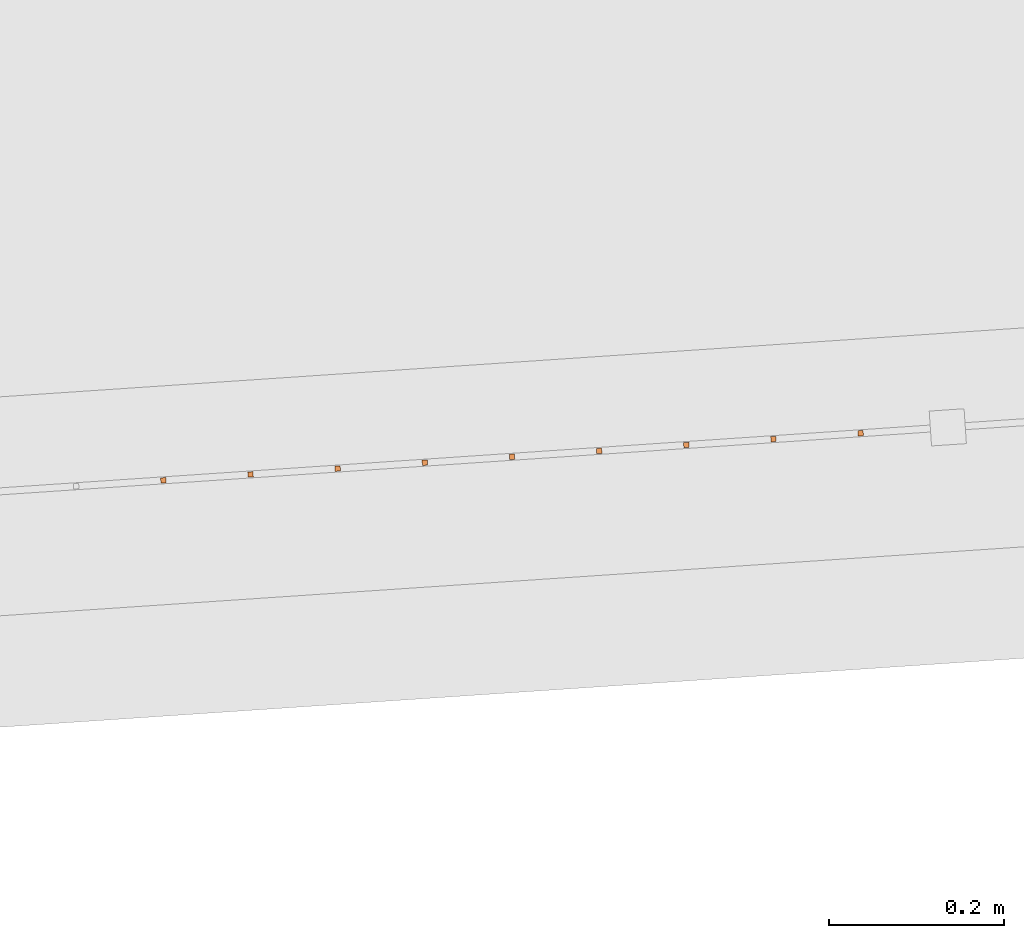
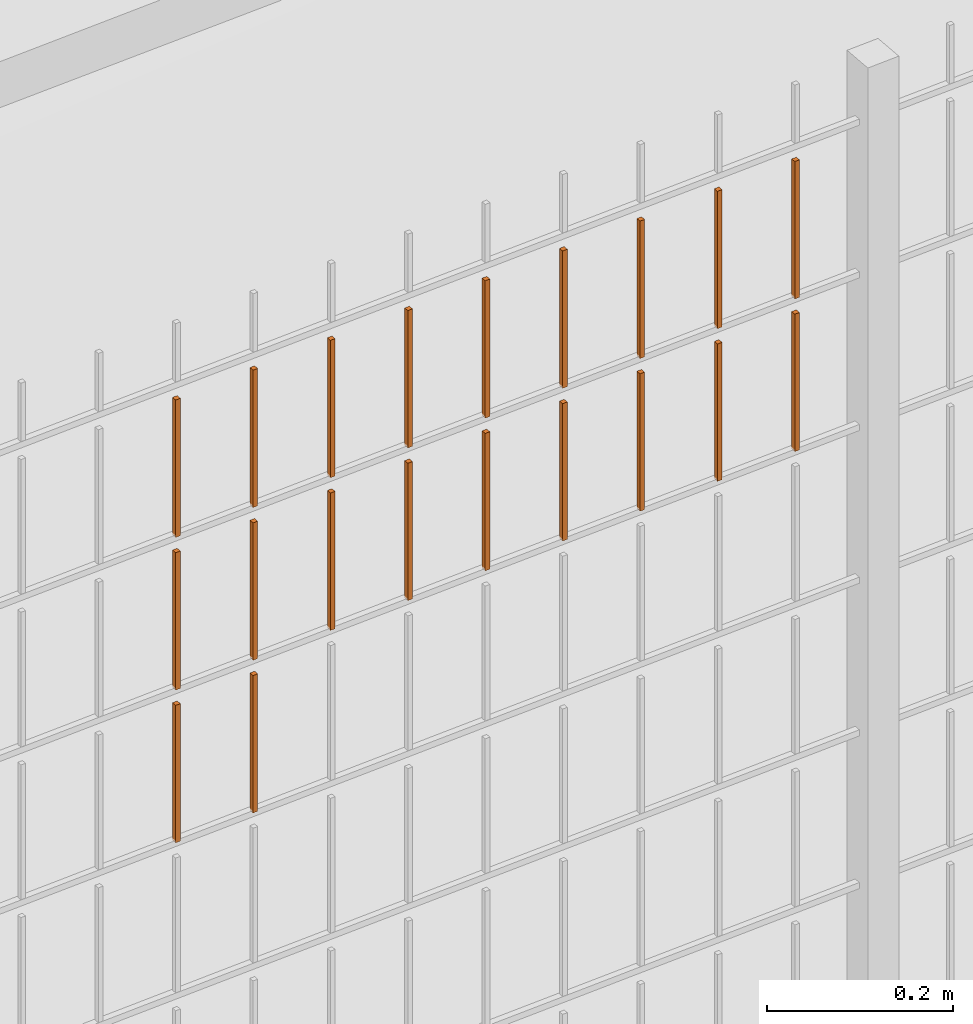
# One storey, part 291 of 1809: 20 proxies, 1 element without a shape of its own.
"""IFC2X3 building model written with IfcOpenShell, lengths in millimetres."""

from ifc_helpers import new_model, entity, si_unit, converted_unit, derived_unit, money_unit, direction, frame, origin_with_axes, place, context, subcontext, project, spatial, faceted_brep, source, transform, mapped, material, type_object, element, aggregate, save


model = new_model("IFC2X3")

# Units and contexts
model_context = context("Model", 3, precision=0.01, world=origin_with_axes(), true_north=direction((0.0, 1.0)))
body_context = subcontext(model_context, "Body", "Model", "MODEL_VIEW")
ifc_project = project(units=[si_unit("LENGTHUNIT", "METRE", prefix="MILLI"), si_unit("AREAUNIT", "SQUARE_METRE"), si_unit("VOLUMEUNIT", "CUBIC_METRE"), converted_unit("PLANEANGLEUNIT", "DEGREE", entity("IfcPlaneAngleMeasure", 0.0174532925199), si_unit("PLANEANGLEUNIT", "RADIAN"), dimensions=[0, 0, 0, 0, 0, 0, 0]), si_unit("SOLIDANGLEUNIT", "STERADIAN"), money_unit("EUR"), converted_unit("TIMEUNIT", "Year", entity("IfcTimeMeasure", 31556926.0), si_unit("TIMEUNIT", "SECOND"), dimensions=[0, 0, 1, 0, 0, 0, 0]), si_unit("MASSUNIT", "GRAM", prefix="KILO"), si_unit("THERMODYNAMICTEMPERATUREUNIT", "DEGREE_CELSIUS"), si_unit("LUMINOUSINTENSITYUNIT", "LUMEN"), si_unit("ENERGYUNIT", "JOULE", prefix="MEGA"), derived_unit("THERMALCONDUCTANCEUNIT", [(si_unit("POWERUNIT", "WATT"), 1), (si_unit("LENGTHUNIT", "METRE"), -1), (si_unit("THERMODYNAMICTEMPERATUREUNIT", "KELVIN"), -1)]), derived_unit("SPECIFICHEATCAPACITYUNIT", [(si_unit("ENERGYUNIT", "JOULE"), 1), (si_unit("MASSUNIT", "GRAM", prefix="KILO"), -1), (si_unit("THERMODYNAMICTEMPERATUREUNIT", "KELVIN"), -1)]), derived_unit("MASSDENSITYUNIT", [(si_unit("MASSUNIT", "GRAM", prefix="KILO"), 1), (si_unit("VOLUMEUNIT", "CUBIC_METRE"), -1)])], contexts=[model_context])

# Site, building, storey
site_placement = place(None, origin_with_axes())
site = spatial("IfcSite", under=ifc_project, at=site_placement, Name="Politse- ja Piirivalveameti ning Päästeameti ühishoone", CompositionType="ELEMENT")
building_placement = place(site_placement, origin_with_axes())
building = spatial("IfcBuilding", under=site, at=building_placement, Name="Politse- ja Piirivalveameti ning Päästeameti ühishoone", CompositionType="ELEMENT")
storey_placement = place(building_placement, origin_with_axes())
storey = spatial("IfcBuildingStorey", under=building, at=storey_placement, Name="Esimene korrus", CompositionType="ELEMENT", Elevation=0.0)

# Proxies
building_element_proxy_type_1 = type_object("IfcBuildingElementProxyType", Name="Railing Type", PredefinedType="NOTDEFINED")
proxy_1_placement = place(storey_placement, frame((89252.001212, -29183.4766571, 203.661247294), z_axis=(0.0, 0.0, 1.0), x_axis=(1.0, 0.0, 0.0)))
proxy_1 = element("IfcBuildingElementProxy", 1, at=proxy_1_placement, inside=storey, type_object=building_element_proxy_type_1, Name="PIIRDEAED")
ifc_material = material(Name="ET-03_Raud")
building_element_proxy_type_2 = type_object("IfcBuildingElementProxyType", Name="IfcBuildingElementProxy", PredefinedType="NOTDEFINED")
shared_shape_1 = source(origin_with_axes(), body_context, "Body", "Brep", [
    faceted_brep([(3.0, 3.0, -0.000752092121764), (-3.0, 3.0, -0.000752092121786), (-3.0, 3.0, 179.99926046), (3.0, 3.0, 179.99926046), (3.0, -3.0, 0.000752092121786), (-3.0, -3.0, 0.000752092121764), (-3.0, -3.0, 180.000764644), (3.0, -3.0, 180.000764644)], [[[0, 1, 2, 3]], [[0, 4, 5, 1]], [[1, 5, 6, 2]], [[3, 2, 6, 7]], [[4, 0, 3, 7]], [[5, 4, 7, 6]]]),
])
proxy_2_placement = place(proxy_1_placement, frame((-47318.8648282, -20493.9855058, 1815.34463938), z_axis=(0.0, 0.0, 1.0), x_axis=(1.0, 0.0, 0.0)))
proxy_2 = element("IfcBuildingElementProxy", 2, at=proxy_2_placement, type_object=building_element_proxy_type_2, material=ifc_material, Name="BALUSTER - 001", context=body_context, shape_type="MappedRepresentation", body=[
    mapped(shared_shape_1, transform((0.0, 0.0, 0.0), x_axis=(-0.0673926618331, 0.997726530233, 0.0), y_axis=(-0.997726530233, -0.0673926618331, 0.0), z_axis=(0.0, 0.0, 1.0))),
])
shared_shape_2 = source(origin_with_axes(), body_context, "Body", "Brep", [
    faceted_brep([(3.0, 3.0, -0.000752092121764), (-3.0, 3.0, -0.000752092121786), (-3.0, 3.0, 179.99926046), (3.0, 3.0, 179.99926046), (3.0, -3.0, 0.000752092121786), (-3.0, -3.0, 0.000752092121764), (-3.0, -3.0, 180.000764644), (3.0, -3.0, 180.000764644)], [[[0, 1, 2, 3]], [[0, 4, 5, 1]], [[1, 5, 6, 2]], [[3, 2, 6, 7]], [[4, 0, 3, 7]], [[5, 4, 7, 6]]]),
])
proxy_3_placement = place(proxy_1_placement, frame((-47318.8648282, -20493.9855058, 1615.34463938), z_axis=(0.0, 0.0, 1.0), x_axis=(1.0, 0.0, 0.0)))
proxy_3 = element("IfcBuildingElementProxy", 3, at=proxy_3_placement, type_object=building_element_proxy_type_2, material=ifc_material, Name="BALUSTER - 001", context=body_context, shape_type="MappedRepresentation", body=[
    mapped(shared_shape_2, transform((0.0, 0.0, 0.0), x_axis=(-0.0673926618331, 0.997726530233, 0.0), y_axis=(-0.997726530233, -0.0673926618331, 0.0), z_axis=(0.0, 0.0, 1.0))),
])
shared_shape_3 = source(origin_with_axes(), body_context, "Body", "Brep", [
    faceted_brep([(3.0, 3.0, -0.000752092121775), (-3.0, 3.0, -0.000752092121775), (-3.0, 3.0, 179.99926046), (3.0, 3.0, 179.99926046), (3.0, -3.0, 0.000752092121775), (-3.0, -3.0, 0.000752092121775), (-3.0, -3.0, 180.000764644), (3.0, -3.0, 180.000764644)], [[[0, 1, 2, 3]], [[0, 4, 5, 1]], [[1, 5, 6, 2]], [[3, 2, 6, 7]], [[4, 0, 3, 7]], [[5, 4, 7, 6]]]),
])
proxy_4_placement = place(proxy_1_placement, frame((-47418.6374813, -20500.724772, 1615.31956965), z_axis=(0.0, 0.0, 1.0), x_axis=(1.0, 0.0, 0.0)))
proxy_4 = element("IfcBuildingElementProxy", 4, at=proxy_4_placement, type_object=building_element_proxy_type_2, material=ifc_material, Name="BALUSTER - 001", context=body_context, shape_type="MappedRepresentation", body=[
    mapped(shared_shape_3, transform((0.0, 0.0, 0.0), x_axis=(-0.0673926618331, 0.997726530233, 0.0), y_axis=(-0.997726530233, -0.0673926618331, 0.0), z_axis=(0.0, 0.0, 1.0))),
])
shared_shape_4 = source(origin_with_axes(), body_context, "Body", "Brep", [
    faceted_brep([(3.0, 3.0, -0.000752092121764), (-3.0, 3.0, -0.000752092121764), (-3.0, 3.0, 179.99926046), (3.0, 3.0, 179.99926046), (3.0, -3.0, 0.000752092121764), (-3.0, -3.0, 0.000752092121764), (-3.0, -3.0, 180.000764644), (3.0, -3.0, 180.000764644)], [[[0, 1, 2, 3]], [[0, 4, 5, 1]], [[1, 5, 6, 2]], [[3, 2, 6, 7]], [[4, 0, 3, 7]], [[5, 4, 7, 6]]]),
])
proxy_5_placement = place(proxy_1_placement, frame((-47717.9554403, -20520.9425705, 1815.24436043), z_axis=(0.0, 0.0, 1.0), x_axis=(1.0, 0.0, 0.0)))
proxy_5 = element("IfcBuildingElementProxy", 5, at=proxy_5_placement, type_object=building_element_proxy_type_2, material=ifc_material, Name="BALUSTER - 001", context=body_context, shape_type="MappedRepresentation", body=[
    mapped(shared_shape_4, transform((0.0, 0.0, 0.0), x_axis=(-0.0673926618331, 0.997726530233, 0.0), y_axis=(-0.997726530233, -0.0673926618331, 0.0), z_axis=(0.0, 0.0, 1.0))),
])
shared_shape_5 = source(origin_with_axes(), body_context, "Body", "Brep", [
    faceted_brep([(3.0, 3.0, -0.000752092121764), (-3.0, 3.0, -0.000752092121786), (-3.0, 3.0, 179.99926046), (3.0, 3.0, 179.99926046), (3.0, -3.0, 0.000752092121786), (-3.0, -3.0, 0.000752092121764), (-3.0, -3.0, 180.000764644), (3.0, -3.0, 180.000764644)], [[[0, 1, 2, 3]], [[0, 4, 5, 1]], [[1, 5, 6, 2]], [[3, 2, 6, 7]], [[4, 0, 3, 7]], [[5, 4, 7, 6]]]),
])
proxy_6_placement = place(proxy_1_placement, frame((-48117.0460524, -20547.8996353, 1815.14408148), z_axis=(0.0, 0.0, 1.0), x_axis=(1.0, 0.0, 0.0)))
proxy_6 = element("IfcBuildingElementProxy", 6, at=proxy_6_placement, type_object=building_element_proxy_type_2, material=ifc_material, Name="BALUSTER - 001", context=body_context, shape_type="MappedRepresentation", body=[
    mapped(shared_shape_5, transform((0.0, 0.0, 0.0), x_axis=(-0.0673926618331, 0.997726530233, 0.0), y_axis=(-0.997726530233, -0.0673926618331, 0.0), z_axis=(0.0, 0.0, 1.0))),
])
shared_shape_6 = source(origin_with_axes(), body_context, "Body", "Brep", [
    faceted_brep([(3.0, 3.0, -0.000752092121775), (-3.0, 3.0, -0.000752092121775), (-3.0, 3.0, 179.99926046), (3.0, 3.0, 179.99926046), (3.0, -3.0, 0.000752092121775), (-3.0, -3.0, 0.000752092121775), (-3.0, -3.0, 180.000764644), (3.0, -3.0, 180.000764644)], [[[0, 1, 2, 3]], [[0, 4, 5, 1]], [[1, 5, 6, 2]], [[3, 2, 6, 7]], [[4, 0, 3, 7]], [[5, 4, 7, 6]]]),
])
proxy_7_placement = place(proxy_1_placement, frame((-47418.6374813, -20500.724772, 1815.31956965), z_axis=(0.0, 0.0, 1.0), x_axis=(1.0, 0.0, 0.0)))
proxy_7 = element("IfcBuildingElementProxy", 7, at=proxy_7_placement, type_object=building_element_proxy_type_2, material=ifc_material, Name="BALUSTER - 001", context=body_context, shape_type="MappedRepresentation", body=[
    mapped(shared_shape_6, transform((0.0, 0.0, 0.0), x_axis=(-0.0673926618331, 0.997726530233, 0.0), y_axis=(-0.997726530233, -0.0673926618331, 0.0), z_axis=(0.0, 0.0, 1.0))),
])
shared_shape_7 = source(origin_with_axes(), body_context, "Body", "Brep", [
    faceted_brep([(3.0, 3.0, -0.000752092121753), (-3.0, 3.0, -0.000752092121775), (-3.0, 3.0, 179.99926046), (3.0, 3.0, 179.99926046), (3.0, -3.0, 0.000752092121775), (-3.0, -3.0, 0.000752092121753), (-3.0, -3.0, 180.000764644), (3.0, -3.0, 180.000764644)], [[[0, 1, 2, 3]], [[0, 4, 5, 1]], [[1, 5, 6, 2]], [[3, 2, 6, 7]], [[4, 0, 3, 7]], [[5, 4, 7, 6]]]),
])
proxy_8_placement = place(proxy_1_placement, frame((-47917.5007464, -20534.4211029, 1815.19422096), z_axis=(0.0, 0.0, 1.0), x_axis=(1.0, 0.0, 0.0)))
proxy_8 = element("IfcBuildingElementProxy", 8, at=proxy_8_placement, type_object=building_element_proxy_type_2, material=ifc_material, Name="BALUSTER - 001", context=body_context, shape_type="MappedRepresentation", body=[
    mapped(shared_shape_7, transform((0.0, 0.0, 0.0), x_axis=(-0.0673926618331, 0.997726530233, 0.0), y_axis=(-0.997726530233, -0.0673926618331, 0.0), z_axis=(0.0, 0.0, 1.0))),
])
shared_shape_8 = source(origin_with_axes(), body_context, "Body", "Brep", [
    faceted_brep([(3.0, 3.0, -0.000752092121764), (-3.0, 3.0, -0.000752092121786), (-3.0, 3.0, 179.99926046), (3.0, 3.0, 179.99926046), (3.0, -3.0, 0.000752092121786), (-3.0, -3.0, 0.000752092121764), (-3.0, -3.0, 180.000764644), (3.0, -3.0, 180.000764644)], [[[0, 1, 2, 3]], [[0, 4, 5, 1]], [[1, 5, 6, 2]], [[3, 2, 6, 7]], [[4, 0, 3, 7]], [[5, 4, 7, 6]]]),
])
proxy_9_placement = place(proxy_1_placement, frame((-48117.0460524, -20547.8996353, 1415.14408148), z_axis=(0.0, 0.0, 1.0), x_axis=(1.0, 0.0, 0.0)))
proxy_9 = element("IfcBuildingElementProxy", 9, at=proxy_9_placement, type_object=building_element_proxy_type_2, material=ifc_material, Name="BALUSTER - 001", context=body_context, shape_type="MappedRepresentation", body=[
    mapped(shared_shape_8, transform((0.0, 0.0, 0.0), x_axis=(-0.0673926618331, 0.997726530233, 0.0), y_axis=(-0.997726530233, -0.0673926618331, 0.0), z_axis=(0.0, 0.0, 1.0))),
])
proxy_10_placement = place(proxy_1_placement, frame((-48117.0460524, -20547.8996353, 1615.14408148), z_axis=(0.0, 0.0, 1.0), x_axis=(1.0, 0.0, 0.0)))
proxy_10 = element("IfcBuildingElementProxy", 10, at=proxy_10_placement, type_object=building_element_proxy_type_2, material=ifc_material, Name="BALUSTER - 001", context=body_context, shape_type="MappedRepresentation", body=[
    mapped(shared_shape_8, transform((0.0, 0.0, 0.0), x_axis=(-0.0673926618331, 0.997726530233, 0.0), y_axis=(-0.997726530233, -0.0673926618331, 0.0), z_axis=(0.0, 0.0, 1.0))),
])
shared_shape_9 = source(origin_with_axes(), body_context, "Body", "Brep", [
    faceted_brep([(3.0, 3.0, -0.000752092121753), (-3.0, 3.0, -0.000752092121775), (-3.0, 3.0, 179.99926046), (3.0, 3.0, 179.99926046), (3.0, -3.0, 0.000752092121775), (-3.0, -3.0, 0.000752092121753), (-3.0, -3.0, 180.000764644), (3.0, -3.0, 180.000764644)], [[[0, 1, 2, 3]], [[0, 4, 5, 1]], [[1, 5, 6, 2]], [[3, 2, 6, 7]], [[4, 0, 3, 7]], [[5, 4, 7, 6]]]),
])
proxy_11_placement = place(proxy_1_placement, frame((-47817.7280933, -20527.6818367, 1615.2192907), z_axis=(0.0, 0.0, 1.0), x_axis=(1.0, 0.0, 0.0)))
proxy_11 = element("IfcBuildingElementProxy", 11, at=proxy_11_placement, type_object=building_element_proxy_type_2, material=ifc_material, Name="BALUSTER - 001", context=body_context, shape_type="MappedRepresentation", body=[
    mapped(shared_shape_9, transform((0.0, 0.0, 0.0), x_axis=(-0.0673926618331, 0.997726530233, 0.0), y_axis=(-0.997726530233, -0.0673926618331, 0.0), z_axis=(0.0, 0.0, 1.0))),
])
shared_shape_10 = source(origin_with_axes(), body_context, "Body", "Brep", [
    faceted_brep([(3.0, 3.0, -0.000752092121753), (-3.0, 3.0, -0.000752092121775), (-3.0, 3.0, 179.99926046), (3.0, 3.0, 179.99926046), (3.0, -3.0, 0.000752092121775), (-3.0, -3.0, 0.000752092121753), (-3.0, -3.0, 180.000764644), (3.0, -3.0, 180.000764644)], [[[0, 1, 2, 3]], [[0, 4, 5, 1]], [[1, 5, 6, 2]], [[3, 2, 6, 7]], [[4, 0, 3, 7]], [[5, 4, 7, 6]]]),
])
proxy_12_placement = place(proxy_1_placement, frame((-47817.7280933, -20527.6818367, 1815.2192907), z_axis=(0.0, 0.0, 1.0), x_axis=(1.0, 0.0, 0.0)))
proxy_12 = element("IfcBuildingElementProxy", 12, at=proxy_12_placement, type_object=building_element_proxy_type_2, material=ifc_material, Name="BALUSTER - 001", context=body_context, shape_type="MappedRepresentation", body=[
    mapped(shared_shape_10, transform((0.0, 0.0, 0.0), x_axis=(-0.0673926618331, 0.997726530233, 0.0), y_axis=(-0.997726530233, -0.0673926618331, 0.0), z_axis=(0.0, 0.0, 1.0))),
])
shared_shape_11 = source(origin_with_axes(), body_context, "Body", "Brep", [
    faceted_brep([(3.0, 3.0, -0.000752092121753), (-3.0, 3.0, -0.000752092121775), (-3.0, 3.0, 179.99926046), (3.0, 3.0, 179.99926046), (3.0, -3.0, 0.000752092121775), (-3.0, -3.0, 0.000752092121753), (-3.0, -3.0, 180.000764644), (3.0, -3.0, 180.000764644)], [[[0, 1, 2, 3]], [[0, 4, 5, 1]], [[1, 5, 6, 2]], [[3, 2, 6, 7]], [[4, 0, 3, 7]], [[5, 4, 7, 6]]]),
])
proxy_13_placement = place(proxy_1_placement, frame((-47917.5007464, -20534.4211029, 1615.19422096), z_axis=(0.0, 0.0, 1.0), x_axis=(1.0, 0.0, 0.0)))
proxy_13 = element("IfcBuildingElementProxy", 13, at=proxy_13_placement, type_object=building_element_proxy_type_2, material=ifc_material, Name="BALUSTER - 001", context=body_context, shape_type="MappedRepresentation", body=[
    mapped(shared_shape_11, transform((0.0, 0.0, 0.0), x_axis=(-0.0673926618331, 0.997726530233, 0.0), y_axis=(-0.997726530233, -0.0673926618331, 0.0), z_axis=(0.0, 0.0, 1.0))),
])
shared_shape_12 = source(origin_with_axes(), body_context, "Body", "Brep", [
    faceted_brep([(3.0, 3.0, -0.000752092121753), (-3.0, 3.0, -0.000752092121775), (-3.0, 3.0, 179.99926046), (3.0, 3.0, 179.99926046), (3.0, -3.0, 0.000752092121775), (-3.0, -3.0, 0.000752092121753), (-3.0, -3.0, 180.000764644), (3.0, -3.0, 180.000764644)], [[[0, 1, 2, 3]], [[0, 4, 5, 1]], [[1, 5, 6, 2]], [[3, 2, 6, 7]], [[4, 0, 3, 7]], [[5, 4, 7, 6]]]),
])
proxy_14_placement = place(proxy_1_placement, frame((-48017.2733994, -20541.1603691, 1815.16915122), z_axis=(0.0, 0.0, 1.0), x_axis=(1.0, 0.0, 0.0)))
proxy_14 = element("IfcBuildingElementProxy", 14, at=proxy_14_placement, type_object=building_element_proxy_type_2, material=ifc_material, Name="BALUSTER - 001", context=body_context, shape_type="MappedRepresentation", body=[
    mapped(shared_shape_12, transform((0.0, 0.0, 0.0), x_axis=(-0.0673926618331, 0.997726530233, 0.0), y_axis=(-0.997726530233, -0.0673926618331, 0.0), z_axis=(0.0, 0.0, 1.0))),
])
shared_shape_13 = source(origin_with_axes(), body_context, "Body", "Brep", [
    faceted_brep([(3.0, 3.0, -0.000752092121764), (-3.0, 3.0, -0.000752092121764), (-3.0, 3.0, 179.99926046), (3.0, 3.0, 179.99926046), (3.0, -3.0, 0.000752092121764), (-3.0, -3.0, 0.000752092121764), (-3.0, -3.0, 180.000764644), (3.0, -3.0, 180.000764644)], [[[0, 1, 2, 3]], [[0, 4, 5, 1]], [[1, 5, 6, 2]], [[3, 2, 6, 7]], [[4, 0, 3, 7]], [[5, 4, 7, 6]]]),
])
proxy_15_placement = place(proxy_1_placement, frame((-47518.4101343, -20507.4640382, 1615.29449991), z_axis=(0.0, 0.0, 1.0), x_axis=(1.0, 0.0, 0.0)))
proxy_15 = element("IfcBuildingElementProxy", 15, at=proxy_15_placement, type_object=building_element_proxy_type_2, material=ifc_material, Name="BALUSTER - 001", context=body_context, shape_type="MappedRepresentation", body=[
    mapped(shared_shape_13, transform((0.0, 0.0, 0.0), x_axis=(-0.0673926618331, 0.997726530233, 0.0), y_axis=(-0.997726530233, -0.0673926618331, 0.0), z_axis=(0.0, 0.0, 1.0))),
])
shared_shape_14 = source(origin_with_axes(), body_context, "Body", "Brep", [
    faceted_brep([(3.0, 3.0, -0.000752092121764), (-3.0, 3.0, -0.000752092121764), (-3.0, 3.0, 179.99926046), (3.0, 3.0, 179.99926046), (3.0, -3.0, 0.000752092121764), (-3.0, -3.0, 0.000752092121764), (-3.0, -3.0, 180.000764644), (3.0, -3.0, 180.000764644)], [[[0, 1, 2, 3]], [[0, 4, 5, 1]], [[1, 5, 6, 2]], [[3, 2, 6, 7]], [[4, 0, 3, 7]], [[5, 4, 7, 6]]]),
])
proxy_16_placement = place(proxy_1_placement, frame((-47518.4101343, -20507.4640382, 1815.29449991), z_axis=(0.0, 0.0, 1.0), x_axis=(1.0, 0.0, 0.0)))
proxy_16 = element("IfcBuildingElementProxy", 16, at=proxy_16_placement, type_object=building_element_proxy_type_2, material=ifc_material, Name="BALUSTER - 001", context=body_context, shape_type="MappedRepresentation", body=[
    mapped(shared_shape_14, transform((0.0, 0.0, 0.0), x_axis=(-0.0673926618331, 0.997726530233, 0.0), y_axis=(-0.997726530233, -0.0673926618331, 0.0), z_axis=(0.0, 0.0, 1.0))),
])
shared_shape_15 = source(origin_with_axes(), body_context, "Body", "Brep", [
    faceted_brep([(3.0, 3.0, -0.000752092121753), (-3.0, 3.0, -0.000752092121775), (-3.0, 3.0, 179.99926046), (3.0, 3.0, 179.99926046), (3.0, -3.0, 0.000752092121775), (-3.0, -3.0, 0.000752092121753), (-3.0, -3.0, 180.000764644), (3.0, -3.0, 180.000764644)], [[[0, 1, 2, 3]], [[0, 4, 5, 1]], [[1, 5, 6, 2]], [[3, 2, 6, 7]], [[4, 0, 3, 7]], [[5, 4, 7, 6]]]),
])
proxy_17_placement = place(proxy_1_placement, frame((-47618.1827873, -20514.2033043, 1615.26943017), z_axis=(0.0, 0.0, 1.0), x_axis=(1.0, 0.0, 0.0)))
proxy_17 = element("IfcBuildingElementProxy", 17, at=proxy_17_placement, type_object=building_element_proxy_type_2, material=ifc_material, Name="BALUSTER - 001", context=body_context, shape_type="MappedRepresentation", body=[
    mapped(shared_shape_15, transform((0.0, 0.0, 0.0), x_axis=(-0.0673926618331, 0.997726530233, 0.0), y_axis=(-0.997726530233, -0.0673926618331, 0.0), z_axis=(0.0, 0.0, 1.0))),
])
shared_shape_16 = source(origin_with_axes(), body_context, "Body", "Brep", [
    faceted_brep([(3.0, 3.0, -0.000752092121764), (-3.0, 3.0, -0.000752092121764), (-3.0, 3.0, 179.99926046), (3.0, 3.0, 179.99926046), (3.0, -3.0, 0.000752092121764), (-3.0, -3.0, 0.000752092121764), (-3.0, -3.0, 180.000764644), (3.0, -3.0, 180.000764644)], [[[0, 1, 2, 3]], [[0, 4, 5, 1]], [[1, 5, 6, 2]], [[3, 2, 6, 7]], [[4, 0, 3, 7]], [[5, 4, 7, 6]]]),
])
proxy_18_placement = place(proxy_1_placement, frame((-47717.9554403, -20520.9425705, 1615.24436043), z_axis=(0.0, 0.0, 1.0), x_axis=(1.0, 0.0, 0.0)))
proxy_18 = element("IfcBuildingElementProxy", 18, at=proxy_18_placement, type_object=building_element_proxy_type_2, material=ifc_material, Name="BALUSTER - 001", context=body_context, shape_type="MappedRepresentation", body=[
    mapped(shared_shape_16, transform((0.0, 0.0, 0.0), x_axis=(-0.0673926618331, 0.997726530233, 0.0), y_axis=(-0.997726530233, -0.0673926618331, 0.0), z_axis=(0.0, 0.0, 1.0))),
])
shared_shape_17 = source(origin_with_axes(), body_context, "Body", "Brep", [
    faceted_brep([(3.0, 3.0, -0.000752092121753), (-3.0, 3.0, -0.000752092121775), (-3.0, 3.0, 179.99926046), (3.0, 3.0, 179.99926046), (3.0, -3.0, 0.000752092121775), (-3.0, -3.0, 0.000752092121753), (-3.0, -3.0, 180.000764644), (3.0, -3.0, 180.000764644)], [[[0, 1, 2, 3]], [[0, 4, 5, 1]], [[1, 5, 6, 2]], [[3, 2, 6, 7]], [[4, 0, 3, 7]], [[5, 4, 7, 6]]]),
])
proxy_19_placement = place(proxy_1_placement, frame((-48017.2733994, -20541.1603691, 1415.16915122), z_axis=(0.0, 0.0, 1.0), x_axis=(1.0, 0.0, 0.0)))
proxy_19 = element("IfcBuildingElementProxy", 19, at=proxy_19_placement, type_object=building_element_proxy_type_2, material=ifc_material, Name="BALUSTER - 001", context=body_context, shape_type="MappedRepresentation", body=[
    mapped(shared_shape_17, transform((0.0, 0.0, 0.0), x_axis=(-0.0673926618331, 0.997726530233, 0.0), y_axis=(-0.997726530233, -0.0673926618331, 0.0), z_axis=(0.0, 0.0, 1.0))),
])
proxy_20_placement = place(proxy_1_placement, frame((-48017.2733994, -20541.1603691, 1615.16915122), z_axis=(0.0, 0.0, 1.0), x_axis=(1.0, 0.0, 0.0)))
proxy_20 = element("IfcBuildingElementProxy", 20, at=proxy_20_placement, type_object=building_element_proxy_type_2, material=ifc_material, Name="BALUSTER - 001", context=body_context, shape_type="MappedRepresentation", body=[
    mapped(shared_shape_17, transform((0.0, 0.0, 0.0), x_axis=(-0.0673926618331, 0.997726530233, 0.0), y_axis=(-0.997726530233, -0.0673926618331, 0.0), z_axis=(0.0, 0.0, 1.0))),
])
shared_shape_18 = source(origin_with_axes(), body_context, "Body", "Brep", [
    faceted_brep([(3.0, 3.0, -0.000752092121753), (-3.0, 3.0, -0.000752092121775), (-3.0, 3.0, 179.99926046), (3.0, 3.0, 179.99926046), (3.0, -3.0, 0.000752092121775), (-3.0, -3.0, 0.000752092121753), (-3.0, -3.0, 180.000764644), (3.0, -3.0, 180.000764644)], [[[0, 1, 2, 3]], [[0, 4, 5, 1]], [[1, 5, 6, 2]], [[3, 2, 6, 7]], [[4, 0, 3, 7]], [[5, 4, 7, 6]]]),
])
proxy_21_placement = place(proxy_1_placement, frame((-47618.1827873, -20514.2033043, 1815.26943017), z_axis=(0.0, 0.0, 1.0), x_axis=(1.0, 0.0, 0.0)))
proxy_21 = element("IfcBuildingElementProxy", 21, at=proxy_21_placement, type_object=building_element_proxy_type_2, material=ifc_material, Name="BALUSTER - 001", context=body_context, shape_type="MappedRepresentation", body=[
    mapped(shared_shape_18, transform((0.0, 0.0, 0.0), x_axis=(-0.0673926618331, 0.997726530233, 0.0), y_axis=(-0.997726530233, -0.0673926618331, 0.0), z_axis=(0.0, 0.0, 1.0))),
])
aggregate(proxy_1, [proxy_19, proxy_9, proxy_3, proxy_4, proxy_15, proxy_17, proxy_18, proxy_11, proxy_13, proxy_20, proxy_10, proxy_2, proxy_7, proxy_16, proxy_21, proxy_5, proxy_12, proxy_8, proxy_14, proxy_6])

save(model, "model.ifc")
